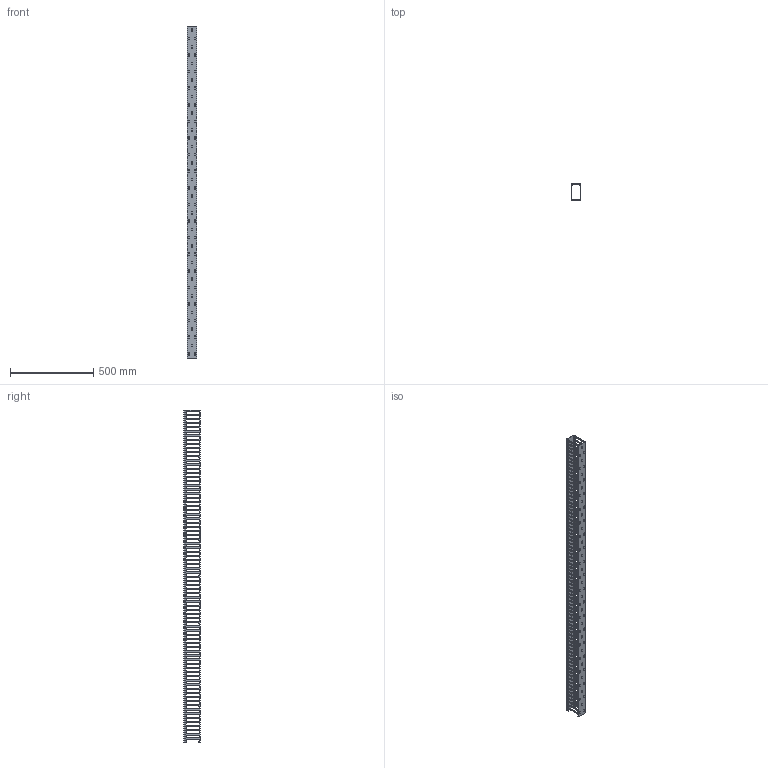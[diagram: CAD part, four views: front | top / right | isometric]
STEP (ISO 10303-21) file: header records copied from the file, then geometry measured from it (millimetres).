
FILE_DESCRIPTION (( 'STEP AP214' ), '1' );
FILE_NAME ('KD-610-20-LL.STEP', '2020-02-19T01:41:21', ( '' ), ( '' ), 'SwSTEP 2.0', 'SolidWorks 2018', '' );
FILE_SCHEMA (( 'AUTOMOTIVE_DESIGN' ));
Length unit declared in the file: millimetre
Products named in the file (3): KD-64-20-cover; KD-610-20-LL; KD-610-20-LL-body
Assembly tree (2 placements, depth 2):
  KD-610-20-LL
    KD-610-20-LL-body
    KD-64-20-cover
Bounding box: 60 x 100.17 x 2000 mm (x, y, z)
Volume: 803446 mm3; surface area: 1036138.4 mm2
Topology: 2 solids, 2 shells, 1643 faces, 4917 edges, 3278 vertices
Faces by surface type: cylinder 857, plane 786
Entity records: 56827 total; most frequent: DIRECTION 9927, CARTESIAN_POINT 9843, ORIENTED_EDGE 9834, EDGE_CURVE 4917, AXIS2_PLACEMENT_3D 3362, VERTEX_POINT 3278, LINE 3203, VECTOR 3203
